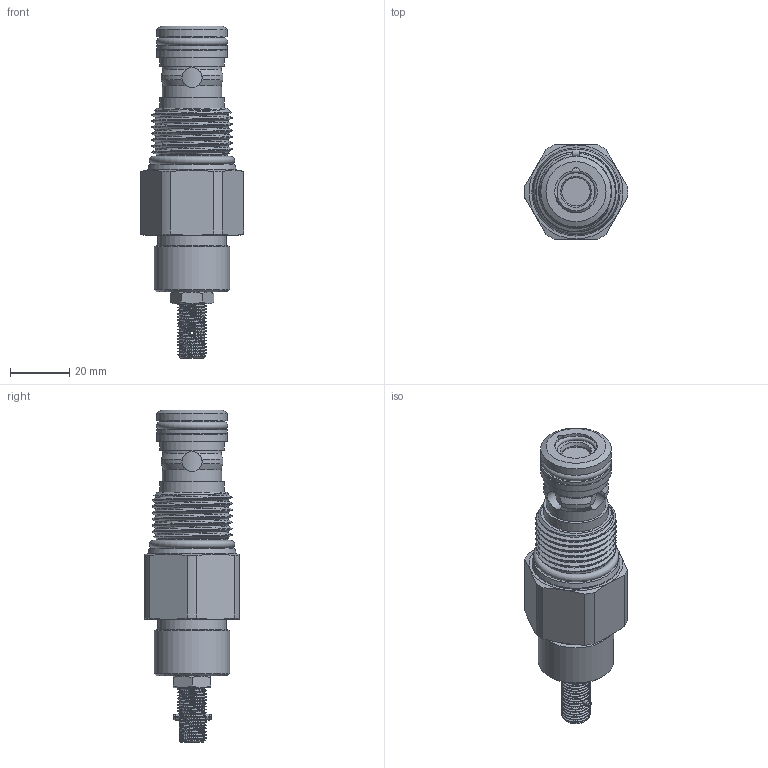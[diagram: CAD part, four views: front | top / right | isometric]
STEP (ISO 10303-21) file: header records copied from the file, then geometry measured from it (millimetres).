
FILE_DESCRIPTION(/* description */ (''),/* implementation_level */ '2;1');
FILE_NAME(/* name */ 'P:\EARS\EAR16xx\EAR1683 - catalog pages changes\Group1_Distribution 11_22_22\RTeck Agency_Tom\_step files\_Models\REF\HTTRVP00.stp',/* time_stamp */ '2023-01-05T07:46:39-06:00',/* author */ ('Michael'),/* organization */ (''),/* preprocessor_version */ 'ST-DEVELOPER v17.2',/* originating_system */ 'Autodesk Inventor 2019',/* authorisation */ '');
FILE_SCHEMA (('AUTOMOTIVE_DESIGN { 1 0 10303 214 3 1 1 }'));
Length unit declared in the file: inch
Products named in the file (1): HTTRVP00
Bounding box: 34.92 x 31.75 x 111.74 mm (x, y, z)
Volume: 50444.9 mm3; surface area: 13871.5 mm2
Topology: 4 solids, 4 shells, 283 faces, 1127 edges, 860 vertices
Faces by surface type: bspline 92, cylinder 77, plane 68, cone 40, torus 6
Full cylindrical faces by diameter (mm): 2.019 x1, 2.032 x1, 4.775 x1, 6.782 x4, 8.382 x2, 9.525 x8, 14.282 x1, 14.296 x1, 19.304 x2, 19.431 x1, 20.015 x2, 21.844 x2, 22.987 x1, 23.724 x2, 23.8 x1, 24.003 x2, 25.4 x1, 29.718 x1
Entity records: 28866 total; most frequent: CARTESIAN_POINT 20568, ORIENTED_EDGE 2250, EDGE_CURVE 1125, DIRECTION 956, VERTEX_POINT 860, B_SPLINE_CURVE_WITH_KNOTS 719, AXIS2_PLACEMENT_3D 404, EDGE_LOOP 299
